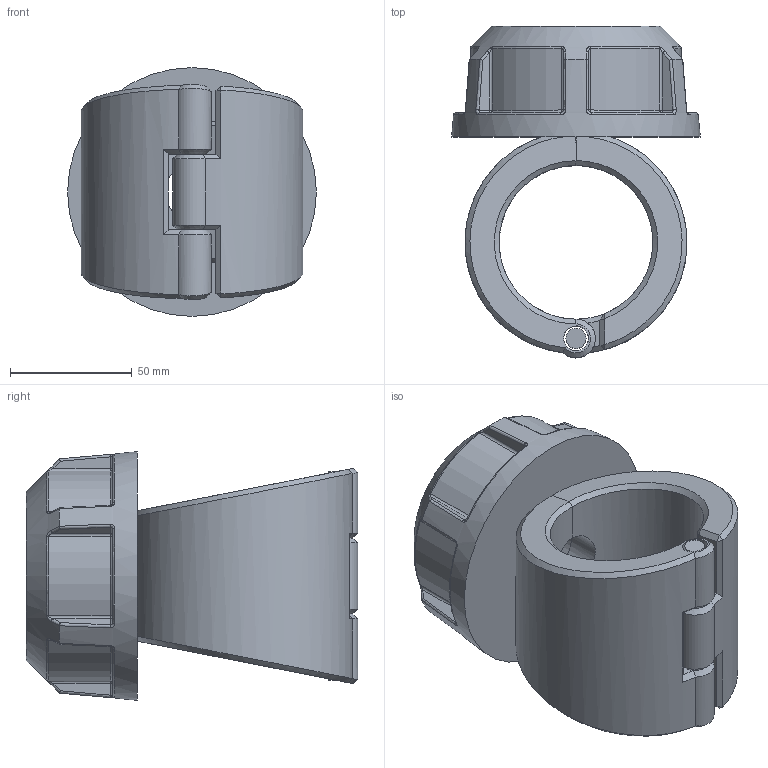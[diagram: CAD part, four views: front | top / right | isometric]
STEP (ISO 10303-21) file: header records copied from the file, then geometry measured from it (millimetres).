
FILE_DESCRIPTION(/* description */ ('Plassadle Threaded 63x1 1/2'''''),/* implementation_level */ '2;1');
FILE_NAME(/* name */ 'C:\Users\comp2\Dropbox\99-16-3568-Processing\Mechanical Fittings\16300\stp\163000063015.stp',/* time_stamp */ '2022-02-03T11:46:54+00:00',/* author */ ('comp2'),/* organization */ (''),/* preprocessor_version */ 'ST-DEVELOPER v17.2',/* originating_system */ 'Autodesk Inventor 2019',/* authorisation */ '');
FILE_SCHEMA (('AUTOMOTIVE_DESIGN { 1 0 10303 214 3 1 1 }'));
Length unit declared in the file: millimetre
Products named in the file (1): 163000063015
Bounding box: 102 x 136 x 102 mm (x, y, z)
Volume: 454073.8 mm3; surface area: 80175.6 mm2
Topology: 4 solids, 4 shells, 203 faces, 486 edges, 293 vertices
Faces by surface type: bspline 58, plane 53, cylinder 47, torus 18, cone 15, sphere 12
Full cylindrical faces by diameter (mm): 8.22 x1, 10.22 x3, 22.422 x1, 38.118 x1, 44.845 x1, 67.267 x1
Entity records: 8185 total; most frequent: CARTESIAN_POINT 3838, ORIENTED_EDGE 972, DIRECTION 781, EDGE_CURVE 486, AXIS2_PLACEMENT_3D 330, VERTEX_POINT 293, EDGE_LOOP 213, FACE_OUTER_BOUND 203
